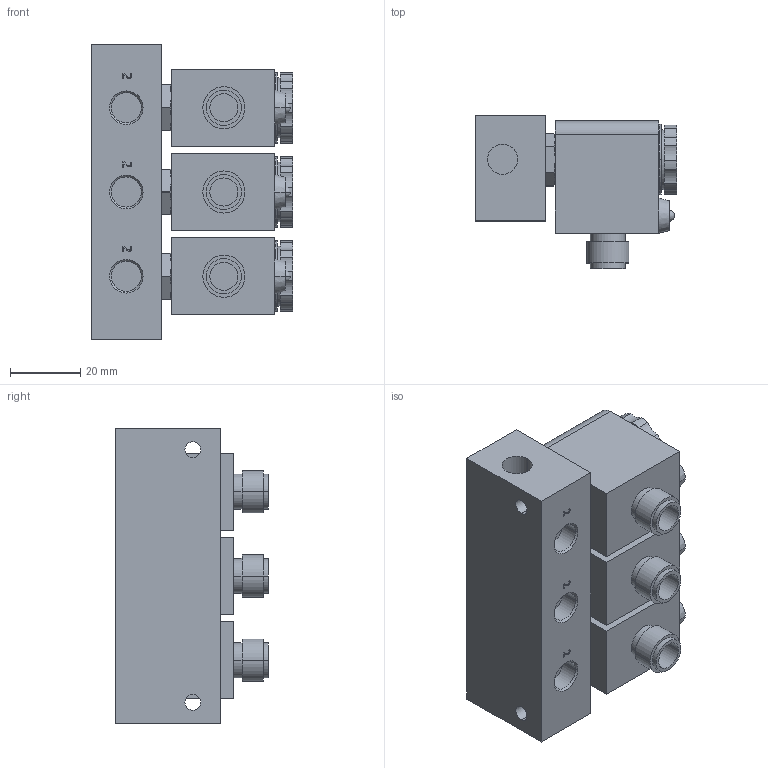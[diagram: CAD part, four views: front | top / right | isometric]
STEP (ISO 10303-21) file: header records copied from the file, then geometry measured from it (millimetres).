
FILE_DESCRIPTION (( 'STEP AP214' ), '1' );
FILE_NAME ('MS-18-310_3-HN-O12_Airtec.step', '2018-12-14T07:36:05', ( '' ), ( '' ), 'SwSTEP 2.0', 'SolidWorks 2010', '' );
FILE_SCHEMA (( 'AUTOMOTIVE_DESIGN' ));
Length unit declared in the file: millimetre
Products named in the file (3): Volumenkörper4; Volumenkörper1; MS-18-310_3-HN-O12_Airtec
Assembly tree (4 placements, depth 2):
  MS-18-310_3-HN-O12_Airtec
    Volumenkörper1  x3
    Volumenkörper4
Bounding box: 57.45 x 43.5 x 84 mm (x, y, z)
Volume: 117361.9 mm3; surface area: 35378.2 mm2
Topology: 4 solids, 4 shells, 556 faces, 1377 edges, 896 vertices
Faces by surface type: cylinder 204, plane 175, bspline 84, cone 63, torus 24, sphere 6
Entity records: 20163 total; most frequent: CARTESIAN_POINT 4770, ORIENTED_EDGE 2494, DIRECTION 2324, EDGE_CURVE 1247, AXIS2_PLACEMENT_3D 904, VERTEX_POINT 812, EDGE_LOOP 571, VECTOR 516
